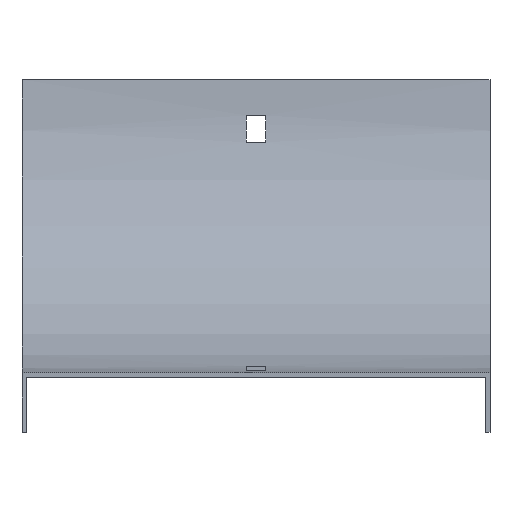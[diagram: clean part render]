
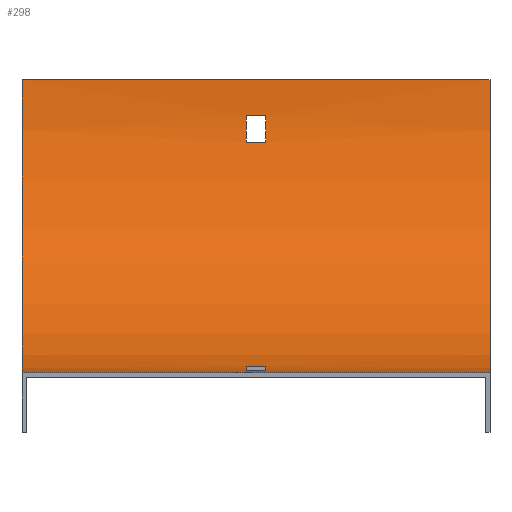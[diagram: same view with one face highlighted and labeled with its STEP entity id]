
A CAD part, top view. The second image highlights one B-rep face of the part: STEP entity #298.
In plain terms, the highlighted cylindrical face has radius 98.5 mm (diameter 197 mm), a partial arc.
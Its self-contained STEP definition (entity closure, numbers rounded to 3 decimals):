
#2 = DIRECTION ( 'NONE',  ( -1., 0., 0. ) ) ;
#10 = CARTESIAN_POINT ( 'NONE',  ( 78.5, 86.5, -97.766 ) ) ;
#25 = DIRECTION ( 'NONE',  ( 1., 0., 0. ) ) ;
#29 = VERTEX_POINT ( 'NONE', #284 ) ;
#50 = CIRCLE ( 'NONE', #423, 98.5 ) ;
#56 = CIRCLE ( 'NONE', #564, 98.5 ) ;
#69 = VERTEX_POINT ( 'NONE', #188 ) ;
#79 = EDGE_LOOP ( 'NONE', ( #568, #255, #453, #417 ) ) ;
#90 = CIRCLE ( 'NONE', #171, 98.5 ) ;
#100 = CARTESIAN_POINT ( 'NONE',  ( 78.5, 2.265, -21. ) ) ;
#102 = DIRECTION ( 'NONE',  ( -1., 0., 0. ) ) ;
#105 = EDGE_CURVE ( 'NONE', #69, #592, #50, .T. ) ;
#122 = LINE ( 'NONE', #491, #419 ) ;
#129 = EDGE_CURVE ( 'NONE', #217, #395, #560, .T. ) ;
#138 = CARTESIAN_POINT ( 'NONE',  ( 78.5, 0., 0. ) ) ;
#143 = AXIS2_PLACEMENT_3D ( 'NONE', #259, #267, #450 ) ;
#148 = DIRECTION ( 'NONE',  ( -1., 0., 0. ) ) ;
#152 = LINE ( 'NONE', #100, #516 ) ;
#155 = LINE ( 'NONE', #342, #242 ) ;
#157 = EDGE_CURVE ( 'NONE', #291, #399, #385, .T. ) ;
#158 = EDGE_CURVE ( 'NONE', #395, #258, #586, .T. ) ;
#165 = ORIENTED_EDGE ( 'NONE', *, *, #475, .T. ) ;
#170 = CARTESIAN_POINT ( 'NONE',  ( -78.5, 98.5, 0. ) ) ;
#171 = AXIS2_PLACEMENT_3D ( 'NONE', #170, #527, #589 ) ;
#172 = CIRCLE ( 'NONE', #463, 98.5 ) ;
#173 = ORIENTED_EDGE ( 'NONE', *, *, #157, .T. ) ;
#184 = ORIENTED_EDGE ( 'NONE', *, *, #536, .F. ) ;
#188 = CARTESIAN_POINT ( 'NONE',  ( 78.5, 98.5, -98.5 ) ) ;
#189 = EDGE_CURVE ( 'NONE', #69, #228, #155, .T. ) ;
#193 = DIRECTION ( 'NONE',  ( -1., 0., 0. ) ) ;
#196 = CARTESIAN_POINT ( 'NONE',  ( -78.5, 98.5, -98.5 ) ) ;
#198 = ORIENTED_EDGE ( 'NONE', *, *, #234, .T. ) ;
#204 = CARTESIAN_POINT ( 'NONE',  ( 78.5, 0.734, -12. ) ) ;
#209 = AXIS2_PLACEMENT_3D ( 'NONE', #311, #582, #260 ) ;
#212 = CARTESIAN_POINT ( 'NONE',  ( 3.25, 98.5, 0. ) ) ;
#217 = VERTEX_POINT ( 'NONE', #240 ) ;
#222 = VECTOR ( 'NONE', #420, 1000. ) ;
#228 = VERTEX_POINT ( 'NONE', #196 ) ;
#229 = CARTESIAN_POINT ( 'NONE',  ( -3.25, 0.734, -12. ) ) ;
#234 = EDGE_CURVE ( 'NONE', #29, #485, #152, .T. ) ;
#240 = CARTESIAN_POINT ( 'NONE',  ( 3.25, 86.5, -97.766 ) ) ;
#241 = EDGE_LOOP ( 'NONE', ( #557, #425, #184, #338 ) ) ;
#242 = VECTOR ( 'NONE', #148, 1000. ) ;
#255 = ORIENTED_EDGE ( 'NONE', *, *, #597, .F. ) ;
#258 = VERTEX_POINT ( 'NONE', #579 ) ;
#259 = CARTESIAN_POINT ( 'NONE',  ( -3.25, 98.5, 0. ) ) ;
#260 = DIRECTION ( 'NONE',  ( 0., 0., 1. ) ) ;
#262 = CARTESIAN_POINT ( 'NONE',  ( 3.25, 98.5, 0. ) ) ;
#267 = DIRECTION ( 'NONE',  ( 1., 0., 0. ) ) ;
#269 = CARTESIAN_POINT ( 'NONE',  ( -3.25, 86.5, -97.766 ) ) ;
#280 = CARTESIAN_POINT ( 'NONE',  ( 78.5, 0., 0. ) ) ;
#284 = CARTESIAN_POINT ( 'NONE',  ( -3.25, 2.265, -21. ) ) ;
#290 = DIRECTION ( 'NONE',  ( 1., 0., 0. ) ) ;
#291 = VERTEX_POINT ( 'NONE', #540 ) ;
#292 = CARTESIAN_POINT ( 'NONE',  ( -3.25, 98.5, 0. ) ) ;
#298 = ADVANCED_FACE ( 'NONE', ( #488, #401, #484 ), #496, .F. ) ;
#301 = DIRECTION ( 'NONE',  ( 0., 0., -1. ) ) ;
#305 = DIRECTION ( 'NONE',  ( -1., 0., 0. ) ) ;
#311 = CARTESIAN_POINT ( 'NONE',  ( 78.5, 98.5, 0. ) ) ;
#325 = EDGE_CURVE ( 'NONE', #258, #446, #122, .T. ) ;
#328 = AXIS2_PLACEMENT_3D ( 'NONE', #292, #193, #388 ) ;
#338 = ORIENTED_EDGE ( 'NONE', *, *, #325, .F. ) ;
#342 = CARTESIAN_POINT ( 'NONE',  ( 78.5, 98.5, -98.5 ) ) ;
#363 = CARTESIAN_POINT ( 'NONE',  ( 3.25, 2.265, -21. ) ) ;
#382 = DIRECTION ( 'NONE',  ( -1., 0., 0. ) ) ;
#385 = LINE ( 'NONE', #204, #428 ) ;
#388 = DIRECTION ( 'NONE',  ( 0., 1., 0. ) ) ;
#395 = VERTEX_POINT ( 'NONE', #269 ) ;
#396 = DIRECTION ( 'NONE',  ( 1., 0., 0. ) ) ;
#399 = VERTEX_POINT ( 'NONE', #229 ) ;
#401 = FACE_BOUND ( 'NONE', #523, .T. ) ;
#412 = LINE ( 'NONE', #280, #222 ) ;
#417 = ORIENTED_EDGE ( 'NONE', *, *, #189, .T. ) ;
#419 = VECTOR ( 'NONE', #25, 1000. ) ;
#420 = DIRECTION ( 'NONE',  ( -1., 0., 0. ) ) ;
#423 = AXIS2_PLACEMENT_3D ( 'NONE', #432, #102, #469 ) ;
#425 = ORIENTED_EDGE ( 'NONE', *, *, #129, .F. ) ;
#428 = VECTOR ( 'NONE', #2, 1000. ) ;
#432 = CARTESIAN_POINT ( 'NONE',  ( 78.5, 98.5, 0. ) ) ;
#439 = CIRCLE ( 'NONE', #143, 98.5 ) ;
#446 = VERTEX_POINT ( 'NONE', #494 ) ;
#450 = DIRECTION ( 'NONE',  ( 0., 0., 1. ) ) ;
#453 = ORIENTED_EDGE ( 'NONE', *, *, #105, .F. ) ;
#454 = DIRECTION ( 'NONE',  ( 0., 0., 1. ) ) ;
#463 = AXIS2_PLACEMENT_3D ( 'NONE', #212, #396, #454 ) ;
#466 = CARTESIAN_POINT ( 'NONE',  ( -78.5, 0., 0. ) ) ;
#469 = DIRECTION ( 'NONE',  ( 0., 0., 1. ) ) ;
#475 = EDGE_CURVE ( 'NONE', #485, #291, #56, .T. ) ;
#484 = FACE_BOUND ( 'NONE', #241, .T. ) ;
#485 = VERTEX_POINT ( 'NONE', #363 ) ;
#488 = FACE_OUTER_BOUND ( 'NONE', #79, .T. ) ;
#491 = CARTESIAN_POINT ( 'NONE',  ( 78.5, 77.5, -96.235 ) ) ;
#494 = CARTESIAN_POINT ( 'NONE',  ( 3.25, 77.5, -96.235 ) ) ;
#496 = CYLINDRICAL_SURFACE ( 'NONE', #209, 98.5 ) ;
#505 = EDGE_CURVE ( 'NONE', #399, #29, #439, .T. ) ;
#516 = VECTOR ( 'NONE', #290, 1000. ) ;
#523 = EDGE_LOOP ( 'NONE', ( #173, #541, #198, #165 ) ) ;
#527 = DIRECTION ( 'NONE',  ( -1., 0., 0. ) ) ;
#532 = VECTOR ( 'NONE', #382, 1000. ) ;
#536 = EDGE_CURVE ( 'NONE', #446, #217, #172, .T. ) ;
#540 = CARTESIAN_POINT ( 'NONE',  ( 3.25, 0.734, -12. ) ) ;
#541 = ORIENTED_EDGE ( 'NONE', *, *, #505, .T. ) ;
#556 = EDGE_CURVE ( 'NONE', #228, #576, #90, .T. ) ;
#557 = ORIENTED_EDGE ( 'NONE', *, *, #158, .F. ) ;
#560 = LINE ( 'NONE', #10, #532 ) ;
#564 = AXIS2_PLACEMENT_3D ( 'NONE', #262, #305, #301 ) ;
#568 = ORIENTED_EDGE ( 'NONE', *, *, #556, .T. ) ;
#576 = VERTEX_POINT ( 'NONE', #466 ) ;
#579 = CARTESIAN_POINT ( 'NONE',  ( -3.25, 77.5, -96.235 ) ) ;
#582 = DIRECTION ( 'NONE',  ( -1., 0., 0. ) ) ;
#586 = CIRCLE ( 'NONE', #328, 98.5 ) ;
#589 = DIRECTION ( 'NONE',  ( 0., 0., 1. ) ) ;
#592 = VERTEX_POINT ( 'NONE', #138 ) ;
#597 = EDGE_CURVE ( 'NONE', #592, #576, #412, .T. ) ;
